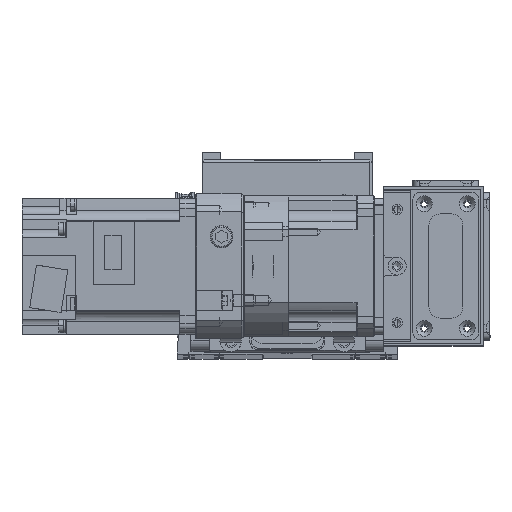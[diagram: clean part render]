
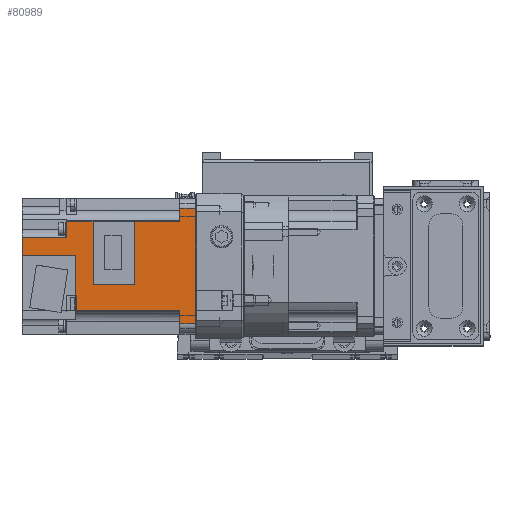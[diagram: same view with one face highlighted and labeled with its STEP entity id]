
A CAD part, top view. The second image highlights one B-rep face of the part: STEP entity #80989.
In plain terms, the highlighted planar face has unit normal (0, 0, 1) as drawn and (0, -1, 0) by its records, which use the part's own axes.
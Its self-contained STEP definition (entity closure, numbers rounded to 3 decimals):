
#6754=FACE_OUTER_BOUND('',#11374,.T.);
#11374=EDGE_LOOP('',(#65562,#65563,#65564,#65565,#65566,#65567,#65568,#65569,
#65570,#65571,#65572,#65573,#65574,#65575,#65576,#65577,#65578,#65579,#65580,
#65581));
#20106=LINE('',#129633,#28833);
#20136=LINE('',#129739,#28863);
#20139=LINE('',#129751,#28866);
#20181=LINE('',#129881,#28908);
#20242=LINE('',#130093,#28969);
#20243=LINE('',#130098,#28970);
#20244=LINE('',#130100,#28971);
#20245=LINE('',#130101,#28972);
#20246=LINE('',#130103,#28973);
#20247=LINE('',#130105,#28974);
#20248=LINE('',#130107,#28975);
#20249=LINE('',#130109,#28976);
#20250=LINE('',#130111,#28977);
#20251=LINE('',#130113,#28978);
#20252=LINE('',#130115,#28979);
#20253=LINE('',#130117,#28980);
#20254=LINE('',#130118,#28981);
#20255=LINE('',#130120,#28982);
#20256=LINE('',#130122,#28983);
#20257=LINE('',#130123,#28984);
#28833=VECTOR('',#102907,51.);
#28863=VECTOR('',#102995,3.41);
#28866=VECTOR('',#103004,2.444);
#28908=VECTOR('',#103124,7.8);
#28969=VECTOR('',#103361,5.941);
#28970=VECTOR('',#103368,7.);
#28971=VECTOR('',#103371,0.905);
#28972=VECTOR('',#103372,45.6);
#28973=VECTOR('',#103373,7.);
#28974=VECTOR('',#103374,5.941);
#28975=VECTOR('',#103375,19.9);
#28976=VECTOR('',#103376,27.559);
#28977=VECTOR('',#103377,18.35);
#28978=VECTOR('',#103378,27.559);
#28979=VECTOR('',#103379,11.85);
#28980=VECTOR('',#103380,7.059);
#28981=VECTOR('',#103381,19.5);
#28982=VECTOR('',#103382,23.5);
#28983=VECTOR('',#103383,17.5);
#28984=VECTOR('',#103384,0.5);
#37448=VERTEX_POINT('',#129630);
#37449=VERTEX_POINT('',#129632);
#37494=VERTEX_POINT('',#129735);
#37496=VERTEX_POINT('',#129738);
#37501=VERTEX_POINT('',#129748);
#37502=VERTEX_POINT('',#129750);
#37550=VERTEX_POINT('',#129878);
#37551=VERTEX_POINT('',#129880);
#37613=VERTEX_POINT('',#130090);
#37614=VERTEX_POINT('',#130092);
#37616=VERTEX_POINT('',#130102);
#37617=VERTEX_POINT('',#130104);
#37618=VERTEX_POINT('',#130106);
#37619=VERTEX_POINT('',#130108);
#37620=VERTEX_POINT('',#130110);
#37621=VERTEX_POINT('',#130112);
#37622=VERTEX_POINT('',#130114);
#37623=VERTEX_POINT('',#130116);
#37624=VERTEX_POINT('',#130119);
#37625=VERTEX_POINT('',#130121);
#47261=EDGE_CURVE('',#37448,#37449,#20106,.T.);
#47313=EDGE_CURVE('',#37494,#37496,#20136,.T.);
#47319=EDGE_CURVE('',#37501,#37502,#20139,.T.);
#47384=EDGE_CURVE('',#37550,#37551,#20181,.T.);
#47489=EDGE_CURVE('',#37614,#37613,#20242,.T.);
#47492=EDGE_CURVE('',#37613,#37449,#20243,.T.);
#47493=EDGE_CURVE('',#37502,#37494,#20244,.T.);
#47494=EDGE_CURVE('',#37614,#37501,#20245,.T.);
#47495=EDGE_CURVE('',#37616,#37448,#20246,.T.);
#47496=EDGE_CURVE('',#37616,#37617,#20247,.T.);
#47497=EDGE_CURVE('',#37617,#37618,#20248,.T.);
#47498=EDGE_CURVE('',#37618,#37619,#20249,.T.);
#47499=EDGE_CURVE('',#37619,#37620,#20250,.T.);
#47500=EDGE_CURVE('',#37620,#37621,#20251,.T.);
#47501=EDGE_CURVE('',#37622,#37621,#20252,.T.);
#47502=EDGE_CURVE('',#37623,#37622,#20253,.T.);
#47503=EDGE_CURVE('',#37551,#37623,#20254,.T.);
#47504=EDGE_CURVE('',#37550,#37624,#20255,.T.);
#47505=EDGE_CURVE('',#37625,#37624,#20256,.T.);
#47506=EDGE_CURVE('',#37496,#37625,#20257,.T.);
#65562=ORIENTED_EDGE('',*,*,#47493,.F.);
#65563=ORIENTED_EDGE('',*,*,#47319,.F.);
#65564=ORIENTED_EDGE('',*,*,#47494,.F.);
#65565=ORIENTED_EDGE('',*,*,#47489,.T.);
#65566=ORIENTED_EDGE('',*,*,#47492,.T.);
#65567=ORIENTED_EDGE('',*,*,#47261,.F.);
#65568=ORIENTED_EDGE('',*,*,#47495,.F.);
#65569=ORIENTED_EDGE('',*,*,#47496,.T.);
#65570=ORIENTED_EDGE('',*,*,#47497,.T.);
#65571=ORIENTED_EDGE('',*,*,#47498,.T.);
#65572=ORIENTED_EDGE('',*,*,#47499,.T.);
#65573=ORIENTED_EDGE('',*,*,#47500,.T.);
#65574=ORIENTED_EDGE('',*,*,#47501,.F.);
#65575=ORIENTED_EDGE('',*,*,#47502,.F.);
#65576=ORIENTED_EDGE('',*,*,#47503,.F.);
#65577=ORIENTED_EDGE('',*,*,#47384,.F.);
#65578=ORIENTED_EDGE('',*,*,#47504,.T.);
#65579=ORIENTED_EDGE('',*,*,#47505,.F.);
#65580=ORIENTED_EDGE('',*,*,#47506,.F.);
#65581=ORIENTED_EDGE('',*,*,#47313,.F.);
#77121=PLANE('',#87866);
#80989=ADVANCED_FACE('',(#6754),#77121,.F.);
#87866=AXIS2_PLACEMENT_3D('',#130099,#103369,#103370);
#102907=DIRECTION('',(1.,0.,0.));
#102995=DIRECTION('',(-1.,0.,0.));
#103004=DIRECTION('',(-1.,0.,0.));
#103124=DIRECTION('',(-1.,0.,0.));
#103361=DIRECTION('',(1.,0.,0.));
#103368=DIRECTION('',(0.,0.,1.));
#103369=DIRECTION('center_axis',(0.,1.,0.));
#103370=DIRECTION('ref_axis',(-1.,0.,0.));
#103371=DIRECTION('',(-1.,0.,0.));
#103372=DIRECTION('',(0.,0.,-1.));
#103373=DIRECTION('',(0.,0.,1.));
#103374=DIRECTION('',(1.,0.,0.));
#103375=DIRECTION('',(0.,0.,-1.));
#103376=DIRECTION('',(1.,0.,0.));
#103377=DIRECTION('',(0.,0.,-1.));
#103378=DIRECTION('',(-1.,0.,0.));
#103379=DIRECTION('',(0.,0.,1.));
#103380=DIRECTION('',(-1.,0.,0.));
#103381=DIRECTION('',(0.,0.,1.));
#103382=DIRECTION('',(0.,0.,1.));
#103383=DIRECTION('',(-1.,0.,0.));
#103384=DIRECTION('',(0.,0.,-1.));
#129630=CARTESIAN_POINT('',(-25.5,-30.,0.));
#129632=CARTESIAN_POINT('',(25.5,-30.,0.));
#129633=CARTESIAN_POINT('',(-25.5,-30.,0.));
#129735=CARTESIAN_POINT('',(16.21,-30.,-52.6));
#129738=CARTESIAN_POINT('',(12.8,-30.,-52.6));
#129739=CARTESIAN_POINT('',(16.21,-30.,-52.6));
#129748=CARTESIAN_POINT('',(19.559,-30.,-52.6));
#129750=CARTESIAN_POINT('',(17.115,-30.,-52.6));
#129751=CARTESIAN_POINT('',(19.559,-30.,-52.6));
#129878=CARTESIAN_POINT('',(-4.7,-30.,-76.6));
#129880=CARTESIAN_POINT('',(-12.5,-30.,-76.6));
#129881=CARTESIAN_POINT('',(-4.7,-30.,-76.6));
#130090=CARTESIAN_POINT('',(25.5,-30.,-7.));
#130092=CARTESIAN_POINT('',(19.559,-30.,-7.));
#130093=CARTESIAN_POINT('',(19.559,-30.,-7.));
#130098=CARTESIAN_POINT('',(25.5,-30.,-7.));
#130099=CARTESIAN_POINT('Origin',(0.,-30.,-3.9));
#130100=CARTESIAN_POINT('',(17.115,-30.,-52.6));
#130101=CARTESIAN_POINT('',(19.559,-30.,-7.));
#130102=CARTESIAN_POINT('',(-25.5,-30.,-7.));
#130103=CARTESIAN_POINT('',(-25.5,-30.,-7.));
#130104=CARTESIAN_POINT('',(-19.559,-30.,-7.));
#130105=CARTESIAN_POINT('',(-25.5,-30.,-7.));
#130106=CARTESIAN_POINT('',(-19.559,-30.,-26.9));
#130107=CARTESIAN_POINT('',(-19.559,-30.,-7.));
#130108=CARTESIAN_POINT('',(8.,-30.,-26.9));
#130109=CARTESIAN_POINT('',(-19.559,-30.,-26.9));
#130110=CARTESIAN_POINT('',(8.,-30.,-45.25));
#130111=CARTESIAN_POINT('',(8.,-30.,-26.9));
#130112=CARTESIAN_POINT('',(-19.559,-30.,-45.25));
#130113=CARTESIAN_POINT('',(8.,-30.,-45.25));
#130114=CARTESIAN_POINT('',(-19.559,-30.,-57.1));
#130115=CARTESIAN_POINT('',(-19.559,-30.,-57.1));
#130116=CARTESIAN_POINT('',(-12.5,-30.,-57.1));
#130117=CARTESIAN_POINT('',(-12.5,-30.,-57.1));
#130118=CARTESIAN_POINT('',(-12.5,-30.,-76.6));
#130119=CARTESIAN_POINT('',(-4.7,-30.,-53.1));
#130120=CARTESIAN_POINT('',(-4.7,-30.,-76.6));
#130121=CARTESIAN_POINT('',(12.8,-30.,-53.1));
#130122=CARTESIAN_POINT('',(12.8,-30.,-53.1));
#130123=CARTESIAN_POINT('',(12.8,-30.,-52.6));
